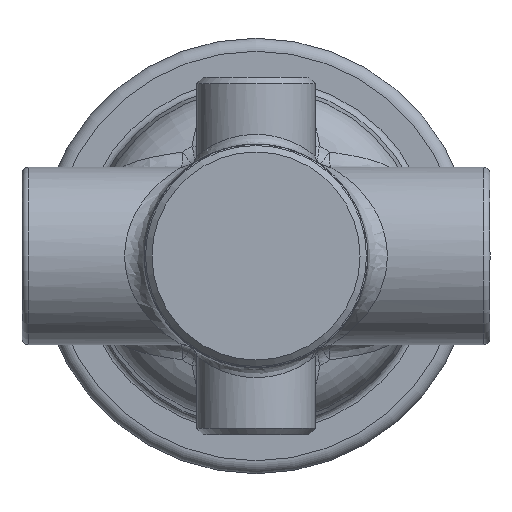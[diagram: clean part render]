
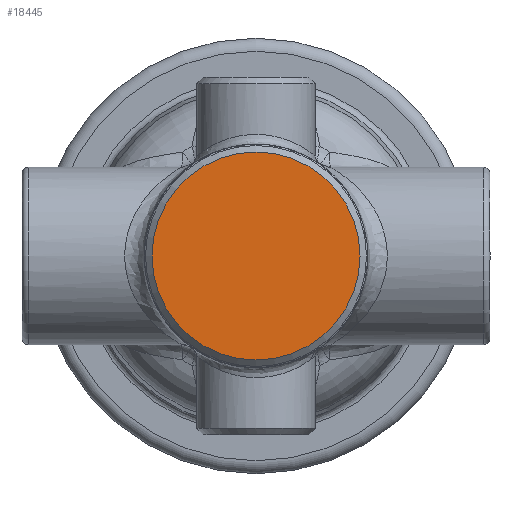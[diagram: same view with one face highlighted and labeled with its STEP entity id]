
A CAD part, front view. The second image highlights one B-rep face of the part: STEP entity #18445.
In plain terms, the highlighted planar face has unit normal (0, -1, 0).
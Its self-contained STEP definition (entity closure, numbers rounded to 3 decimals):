
#18413=CARTESIAN_POINT('',(16.0,0.0,0.));
#18414=VERTEX_POINT('',#18413);
#18415=CARTESIAN_POINT('',(0.0,0.0,0.0));
#18416=DIRECTION('',(0.0,1.0,0.0));
#18417=DIRECTION('',(-1.0,0.0,0.0));
#18418=AXIS2_PLACEMENT_3D('',#18415,#18416,#18417);
#18419=CIRCLE('',#18418,16.0);
#18420=EDGE_CURVE('',#18414,#18414,#18419,.T.);
#18437=CARTESIAN_POINT('',(8.5,0.0,0.0));
#18438=DIRECTION('',(0.0,-1.0,0.0));
#18439=DIRECTION('',(0.0,0.0,-1.0));
#18440=AXIS2_PLACEMENT_3D('',#18437,#18438,#18439);
#18441=PLANE('',#18440);
#18442=ORIENTED_EDGE('',*,*,#18420,.F.);
#18443=EDGE_LOOP('',(#18442));
#18444=FACE_OUTER_BOUND('',#18443,.T.);
#18445=ADVANCED_FACE('',(#18444),#18441,.T.);
